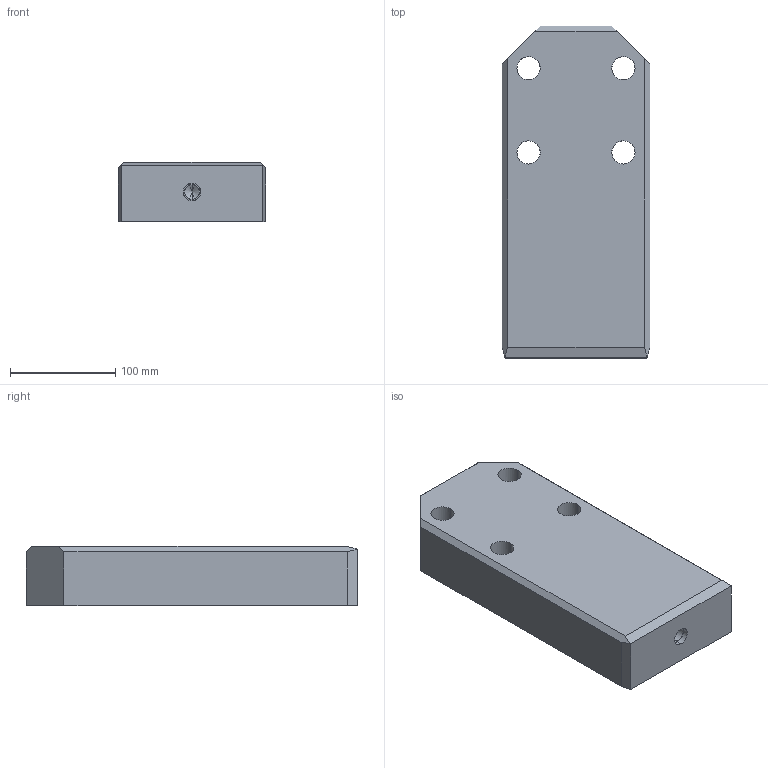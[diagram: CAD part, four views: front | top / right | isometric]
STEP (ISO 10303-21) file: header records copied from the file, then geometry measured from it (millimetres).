
FILE_DESCRIPTION(('CATIA V5 STEP Exchange'),'2;1');
FILE_NAME('C:\Users\borellobunino\Desktop\3D X SITO CF\A927\GSB_OILLESS_G2290514031556\STEP-2.03\A927-140X315X56.stp','2019-07-15T19:39:02+00:00',('none'),('none'),'CATIA Version 5 Release 20 GA (IN-10)','CATIA V5 STEP AP203','none');
FILE_SCHEMA(('CONFIG_CONTROL_DESIGN'));
Length unit declared in the file: millimetre
Products named in the file (1): A927-140X315X56
Bounding box: 140 x 315 x 56 mm (x, y, z)
Volume: 2242707.7 mm3; surface area: 149416.6 mm2
Topology: 1 solids, 1 shells, 52 faces, 134 edges, 89 vertices
Faces by surface type: cylinder 22, plane 20, cone 10
Entity records: 2048 total; most frequent: CARTESIAN_POINT 784, ORIENTED_EDGE 264, DIRECTION 206, EDGE_CURVE 132, VERTEX_POINT 89, AXIS2_PLACEMENT_3D 87, VECTOR 68, LINE 68
